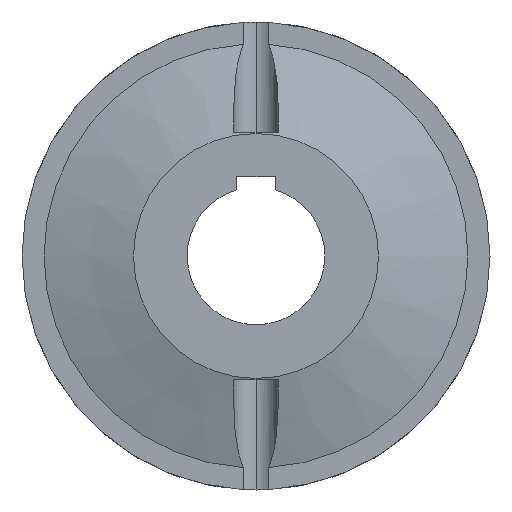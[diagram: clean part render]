
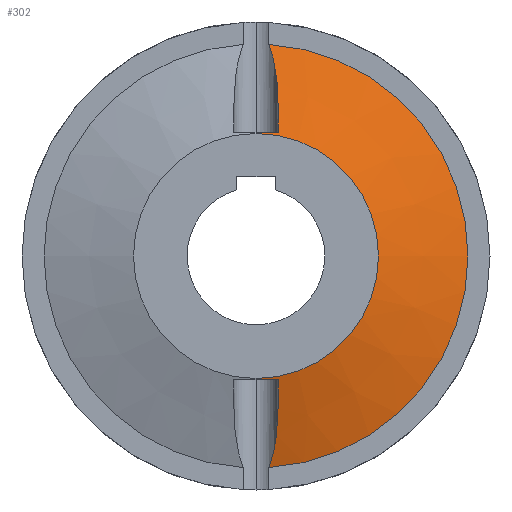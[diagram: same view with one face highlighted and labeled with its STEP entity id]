
A CAD part, left-side view. The second image highlights one B-rep face of the part: STEP entity #302.
In plain terms, the highlighted conical face has half-angle 72.897 degrees and reference radius 77 mm.
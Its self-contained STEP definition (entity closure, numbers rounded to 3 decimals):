
#302=ADVANCED_FACE('',(#787),#788,.T.);
#787=FACE_OUTER_BOUND('',#1471,.T.);
#788=CONICAL_SURFACE('',#1472,77.0,1.272);
#1471=EDGE_LOOP('',(#2312,#2313,#2314,#2315,#2316,#2317,#2318,#2319,#2320,#2321));
#1472=AXIS2_PLACEMENT_3D('',#2322,#2323,#2324);
#2312=ORIENTED_EDGE('',*,*,#4350,.F.);
#2313=ORIENTED_EDGE('',*,*,#4351,.T.);
#2314=ORIENTED_EDGE('',*,*,#4352,.F.);
#2315=ORIENTED_EDGE('',*,*,#4353,.T.);
#2316=ORIENTED_EDGE('',*,*,#4354,.T.);
#2317=ORIENTED_EDGE('',*,*,#4355,.T.);
#2318=ORIENTED_EDGE('',*,*,#4356,.T.);
#2319=ORIENTED_EDGE('',*,*,#4357,.T.);
#2320=ORIENTED_EDGE('',*,*,#4358,.T.);
#2321=ORIENTED_EDGE('',*,*,#4359,.F.);
#2322=CARTESIAN_POINT('',(-85.0,0.,0.));
#2323=DIRECTION('',(1.0,0.,0.));
#2324=DIRECTION('',(0.,0.0,1.0));
#4350=EDGE_CURVE('',#5319,#5320,#5321,.T.);
#4351=EDGE_CURVE('',#5319,#5322,#5323,.T.);
#4352=EDGE_CURVE('',#5324,#5322,#5325,.T.);
#4353=EDGE_CURVE('',#5324,#5326,#5327,.T.);
#4354=EDGE_CURVE('',#5326,#5328,#5329,.T.);
#4355=EDGE_CURVE('',#5328,#5330,#5331,.T.);
#4356=EDGE_CURVE('',#5330,#5332,#5333,.F.);
#4357=EDGE_CURVE('',#5332,#5334,#5335,.T.);
#4358=EDGE_CURVE('',#5334,#5336,#5337,.T.);
#4359=EDGE_CURVE('',#5320,#5336,#5338,.T.);
#5319=VERTEX_POINT('',#6681);
#5320=VERTEX_POINT('',#6682);
#5321=LINE('',#6683,#6684);
#5322=VERTEX_POINT('',#6685);
#5323=CIRCLE('',#6686,44.5);
#5324=VERTEX_POINT('',#6687);
#5325=LINE('',#6688,#6689);
#5326=VERTEX_POINT('',#6690);
#5327=(B_SPLINE_CURVE(2,(#6692,#6693,#6694),.UNSPECIFIED.,.F.,.F.)B_SPLINE_CURVE_WITH_KNOTS((3,3),(6.168,8.497),.UNSPECIFIED.)RATIONAL_B_SPLINE_CURVE((1.435,1.457,1.435))BOUNDED_CURVE()REPRESENTATION_ITEM('')GEOMETRIC_REPRESENTATION_ITEM()CURVE());
#5328=VERTEX_POINT('',#6701);
#5329=(B_SPLINE_CURVE(2,(#6703,#6704,#6705),.UNSPECIFIED.,.F.,.F.)B_SPLINE_CURVE_WITH_KNOTS((3,3),(0.66,1.911),.UNSPECIFIED.)RATIONAL_B_SPLINE_CURVE((1.016,1.027,1.029))BOUNDED_CURVE()REPRESENTATION_ITEM('')GEOMETRIC_REPRESENTATION_ITEM()CURVE());
#5330=VERTEX_POINT('',#6712);
#5331=B_SPLINE_CURVE_WITH_KNOTS('',3,(#6713,#6714,#6715,#6716,#6717,#6718,#6719,#6720,#6721,#6722),.UNSPECIFIED.,.F.,.F.,(4,2,2,2,4),(-6.94,-6.865,-5.591,-5.015,-4.791),.UNSPECIFIED.);
#5332=VERTEX_POINT('',#6723);
#5333=CIRCLE('',#6724,77.0);
#5334=VERTEX_POINT('',#6725);
#5335=B_SPLINE_CURVE_WITH_KNOTS('',3,(#6726,#6727,#6728,#6729,#6730,#6731,#6732,#6733,#6734,#6735),.UNSPECIFIED.,.F.,.F.,(4,2,2,2,4),(-3.347,-3.124,-2.548,-1.274,-1.198),.UNSPECIFIED.);
#5336=VERTEX_POINT('',#6736);
#5337=(B_SPLINE_CURVE(2,(#6738,#6739,#6740),.UNSPECIFIED.,.F.,.F.)B_SPLINE_CURVE_WITH_KNOTS((3,3),(2.232,3.485),.UNSPECIFIED.)RATIONAL_B_SPLINE_CURVE((1.028,1.027,1.015))BOUNDED_CURVE()REPRESENTATION_ITEM('')GEOMETRIC_REPRESENTATION_ITEM()CURVE());
#5338=(B_SPLINE_CURVE(2,(#6748,#6749,#6750),.UNSPECIFIED.,.F.,.F.)B_SPLINE_CURVE_WITH_KNOTS((3,3),(6.168,8.497),.UNSPECIFIED.)RATIONAL_B_SPLINE_CURVE((1.435,1.457,1.435))BOUNDED_CURVE()REPRESENTATION_ITEM('')GEOMETRIC_REPRESENTATION_ITEM()CURVE());
#6681=CARTESIAN_POINT('',(-95.0,0.,44.5));
#6682=CARTESIAN_POINT('',(-94.846,0.,45.0));
#6683=CARTESIAN_POINT('',(-85.0,0.,77.0));
#6684=VECTOR('',#8390,1.0);
#6685=CARTESIAN_POINT('',(-95.0,0.,-44.5));
#6686=AXIS2_PLACEMENT_3D('',#8391,#8392,#8393);
#6687=CARTESIAN_POINT('',(-94.846,0.,-45.0));
#6688=CARTESIAN_POINT('',(-85.0,0.,-77.0));
#6689=VECTOR('',#8394,1.0);
#6690=CARTESIAN_POINT('',(-94.629,-8.,-45.0));
#6692=CARTESIAN_POINT('',(-94.629,8.,-45.0));
#6693=CARTESIAN_POINT('',(-95.06,0.,-45.0));
#6694=CARTESIAN_POINT('',(-94.629,-8.,-45.0));
#6701=CARTESIAN_POINT('',(-91.494,-8.,-55.318));
#6703=CARTESIAN_POINT('',(-94.629,-8.0,-45.));
#6704=CARTESIAN_POINT('',(-93.223,-8.0,-49.642));
#6705=CARTESIAN_POINT('',(-91.494,-8.0,-55.318));
#6712=CARTESIAN_POINT('',(-85.,-4.672,-76.858));
#6713=CARTESIAN_POINT('',(-91.494,-8.,-55.318));
#6714=CARTESIAN_POINT('',(-91.414,-8.,-55.582));
#6715=CARTESIAN_POINT('',(-91.333,-7.999,-55.846));
#6716=CARTESIAN_POINT('',(-89.902,-7.956,-60.552));
#6717=CARTESIAN_POINT('',(-88.562,-7.575,-64.994));
#6718=CARTESIAN_POINT('',(-86.813,-6.518,-70.812));
#6719=CARTESIAN_POINT('',(-86.22,-6.073,-72.785));
#6720=CARTESIAN_POINT('',(-85.428,-5.226,-75.428));
#6721=CARTESIAN_POINT('',(-85.21,-4.964,-76.155));
#6722=CARTESIAN_POINT('',(-85.0,-4.672,-76.858));
#6723=CARTESIAN_POINT('',(-85.,-4.672,76.858));
#6724=AXIS2_PLACEMENT_3D('',#8395,#8396,#8397);
#6725=CARTESIAN_POINT('',(-91.494,-8.,55.318));
#6726=CARTESIAN_POINT('',(-85.,-4.672,76.858));
#6727=CARTESIAN_POINT('',(-85.21,-4.964,76.155));
#6728=CARTESIAN_POINT('',(-85.428,-5.226,75.428));
#6729=CARTESIAN_POINT('',(-86.22,-6.073,72.785));
#6730=CARTESIAN_POINT('',(-86.813,-6.518,70.812));
#6731=CARTESIAN_POINT('',(-88.562,-7.575,64.994));
#6732=CARTESIAN_POINT('',(-89.902,-7.956,60.552));
#6733=CARTESIAN_POINT('',(-91.333,-7.999,55.846));
#6734=CARTESIAN_POINT('',(-91.414,-8.,55.582));
#6735=CARTESIAN_POINT('',(-91.494,-8.,55.318));
#6736=CARTESIAN_POINT('',(-94.629,-8.,45.0));
#6738=CARTESIAN_POINT('',(-91.494,-8.,55.318));
#6739=CARTESIAN_POINT('',(-93.223,-8.,49.642));
#6740=CARTESIAN_POINT('',(-94.629,-8.,45.));
#6748=CARTESIAN_POINT('',(-94.629,8.,45.0));
#6749=CARTESIAN_POINT('',(-95.06,0.,45.0));
#6750=CARTESIAN_POINT('',(-94.629,-8.,45.0));
#8390=DIRECTION('',(0.294,0.,0.956));
#8391=CARTESIAN_POINT('',(-95.0,0.,0.));
#8392=DIRECTION('',(1.0,0.,0.));
#8393=DIRECTION('',(0.,0.0,1.0));
#8394=DIRECTION('',(-0.294,0.,0.956));
#8395=CARTESIAN_POINT('',(-85.0,0.,0.));
#8396=DIRECTION('',(1.0,0.,0.));
#8397=DIRECTION('',(0.,0.0,1.0));
